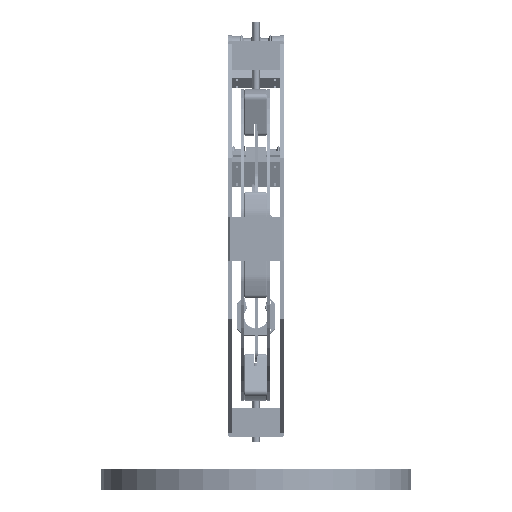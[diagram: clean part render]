
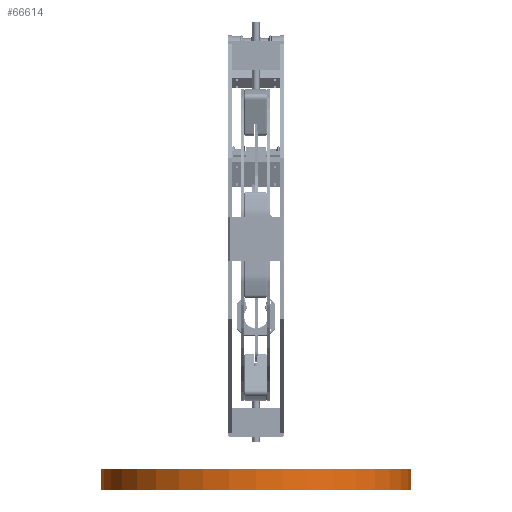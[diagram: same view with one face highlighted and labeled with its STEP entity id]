
A CAD part, left-side view. The second image highlights one B-rep face of the part: STEP entity #66614.
In plain terms, the highlighted cylindrical face has radius 175 mm (diameter 350 mm), a partial arc.
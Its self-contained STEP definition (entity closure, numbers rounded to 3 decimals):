
#7458=FACE_OUTER_BOUND('',#11543,.T.);
#11543=EDGE_LOOP('',(#57353,#57354,#57355,#57356));
#16161=LINE('',#116395,#20511);
#16162=LINE('',#116396,#20512);
#20511=VECTOR('',#90948,10.);
#20512=VECTOR('',#90949,10.);
#24428=CIRCLE('',#73528,175.);
#24453=CIRCLE('',#73556,175.);
#30142=VERTEX_POINT('',#115894);
#30143=VERTEX_POINT('',#115896);
#30199=VERTEX_POINT('',#116104);
#30200=VERTEX_POINT('',#116106);
#39379=EDGE_CURVE('',#30143,#30142,#24428,.T.);
#39439=EDGE_CURVE('',#30200,#30199,#24453,.T.);
#39533=EDGE_CURVE('',#30142,#30200,#16161,.T.);
#39534=EDGE_CURVE('',#30199,#30143,#16162,.T.);
#57353=ORIENTED_EDGE('',*,*,#39379,.T.);
#57354=ORIENTED_EDGE('',*,*,#39533,.T.);
#57355=ORIENTED_EDGE('',*,*,#39439,.T.);
#57356=ORIENTED_EDGE('',*,*,#39534,.T.);
#63346=CYLINDRICAL_SURFACE('',#73625,175.);
#66614=ADVANCED_FACE('',(#7458),#63346,.T.);
#73528=AXIS2_PLACEMENT_3D('',#115897,#90649,#90650);
#73556=AXIS2_PLACEMENT_3D('',#116107,#90737,#90738);
#73625=AXIS2_PLACEMENT_3D('',#116394,#90946,#90947);
#90649=DIRECTION('center_axis',(0.,0.,-1.));
#90650=DIRECTION('ref_axis',(-0.707,0.707,0.));
#90737=DIRECTION('center_axis',(0.,0.,1.));
#90738=DIRECTION('ref_axis',(-0.707,0.707,0.));
#90946=DIRECTION('center_axis',(0.,0.,1.));
#90947=DIRECTION('ref_axis',(-0.707,-0.707,0.));
#90948=DIRECTION('',(0.,0.,-1.));
#90949=DIRECTION('',(0.,0.,1.));
#115894=CARTESIAN_POINT('',(-225.,175.,24.));
#115896=CARTESIAN_POINT('',(-225.,-175.,24.));
#115897=CARTESIAN_POINT('Origin',(-225.,0.,24.));
#116104=CARTESIAN_POINT('',(-225.,-175.,0.));
#116106=CARTESIAN_POINT('',(-225.,175.,0.));
#116107=CARTESIAN_POINT('Origin',(-225.,0.,0.));
#116394=CARTESIAN_POINT('Origin',(-225.,0.,0.));
#116395=CARTESIAN_POINT('',(-225.,175.,0.));
#116396=CARTESIAN_POINT('',(-225.,-175.,0.));
